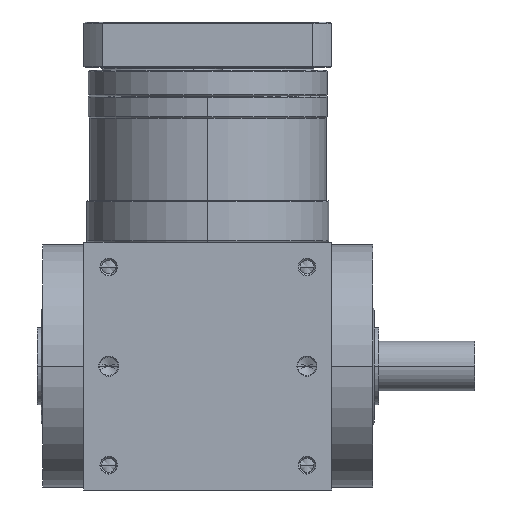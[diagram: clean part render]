
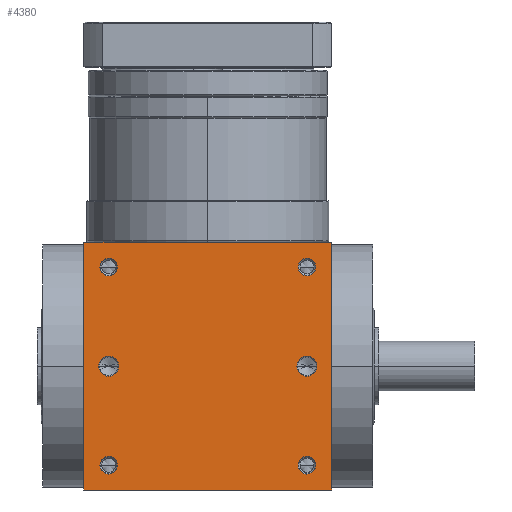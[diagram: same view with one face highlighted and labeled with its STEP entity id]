
A CAD part, front view. The second image highlights one B-rep face of the part: STEP entity #4380.
In plain terms, the highlighted planar face has unit normal (0, -1, 0).
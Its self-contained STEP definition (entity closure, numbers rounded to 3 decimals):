
#5=DIRECTION('',(1.,0.,0.));
#6=VECTOR('',#5,90.);
#7=CARTESIAN_POINT('',(-45.,-45.,-45.));
#8=LINE('',#7,#6);
#155=DIRECTION('',(0.,0.,1.));
#156=VECTOR('',#155,90.);
#157=CARTESIAN_POINT('',(45.,-45.,-45.));
#158=LINE('',#157,#156);
#209=DIRECTION('',(0.,0.,1.));
#210=VECTOR('',#209,90.);
#211=CARTESIAN_POINT('',(-45.,-45.,-45.));
#212=LINE('',#211,#210);
#213=CARTESIAN_POINT('',(36.,-45.,36.));
#214=DIRECTION('',(0.,1.,0.));
#215=DIRECTION('',(-1.,0.,0.));
#216=AXIS2_PLACEMENT_3D('',#213,#214,#215);
#218=CARTESIAN_POINT('',(36.,-45.,36.));
#219=DIRECTION('',(0.,1.,0.));
#220=DIRECTION('',(1.,0.,0.));
#221=AXIS2_PLACEMENT_3D('',#218,#219,#220);
#223=CARTESIAN_POINT('',(-36.,-45.,36.));
#224=DIRECTION('',(0.,1.,0.));
#225=DIRECTION('',(-1.,0.,0.));
#226=AXIS2_PLACEMENT_3D('',#223,#224,#225);
#228=CARTESIAN_POINT('',(-36.,-45.,36.));
#229=DIRECTION('',(0.,1.,0.));
#230=DIRECTION('',(1.,0.,0.));
#231=AXIS2_PLACEMENT_3D('',#228,#229,#230);
#233=CARTESIAN_POINT('',(36.,-45.,-36.));
#234=DIRECTION('',(0.,1.,0.));
#235=DIRECTION('',(-1.,0.,0.));
#236=AXIS2_PLACEMENT_3D('',#233,#234,#235);
#238=CARTESIAN_POINT('',(36.,-45.,-36.));
#239=DIRECTION('',(0.,1.,0.));
#240=DIRECTION('',(1.,0.,0.));
#241=AXIS2_PLACEMENT_3D('',#238,#239,#240);
#243=CARTESIAN_POINT('',(-36.,-45.,-36.));
#244=DIRECTION('',(0.,1.,0.));
#245=DIRECTION('',(-1.,0.,0.));
#246=AXIS2_PLACEMENT_3D('',#243,#244,#245);
#248=CARTESIAN_POINT('',(-36.,-45.,-36.));
#249=DIRECTION('',(0.,1.,0.));
#250=DIRECTION('',(1.,0.,0.));
#251=AXIS2_PLACEMENT_3D('',#248,#249,#250);
#253=CARTESIAN_POINT('',(-36.,-45.,0.));
#254=DIRECTION('',(0.,1.,0.));
#255=DIRECTION('',(1.,0.,0.));
#256=AXIS2_PLACEMENT_3D('',#253,#254,#255);
#258=CARTESIAN_POINT('',(-36.,-45.,0.));
#259=DIRECTION('',(0.,1.,0.));
#260=DIRECTION('',(-1.,0.,0.));
#261=AXIS2_PLACEMENT_3D('',#258,#259,#260);
#263=CARTESIAN_POINT('',(36.,-45.,0.));
#264=DIRECTION('',(0.,1.,0.));
#265=DIRECTION('',(1.,0.,0.));
#266=AXIS2_PLACEMENT_3D('',#263,#264,#265);
#268=CARTESIAN_POINT('',(36.,-45.,0.));
#269=DIRECTION('',(0.,1.,0.));
#270=DIRECTION('',(-1.,0.,0.));
#271=AXIS2_PLACEMENT_3D('',#268,#269,#270);
#285=DIRECTION('',(1.,0.,0.));
#286=VECTOR('',#285,90.);
#287=CARTESIAN_POINT('',(-45.,-45.,45.));
#288=LINE('',#287,#286);
#3498=CARTESIAN_POINT('',(-45.,-45.,-45.));
#3500=VERTEX_POINT('',#3498);
#3501=CARTESIAN_POINT('',(45.,-45.,-45.));
#3502=VERTEX_POINT('',#3501);
#3506=CARTESIAN_POINT('',(-45.,-45.,45.));
#3508=VERTEX_POINT('',#3506);
#3509=CARTESIAN_POINT('',(45.,-45.,45.));
#3510=VERTEX_POINT('',#3509);
#3681=CARTESIAN_POINT('',(32.8,-45.,36.));
#3682=CARTESIAN_POINT('',(39.2,-45.,36.));
#3683=VERTEX_POINT('',#3681);
#3684=VERTEX_POINT('',#3682);
#3689=CARTESIAN_POINT('',(-39.2,-45.,36.));
#3690=CARTESIAN_POINT('',(-32.8,-45.,36.));
#3691=VERTEX_POINT('',#3689);
#3692=VERTEX_POINT('',#3690);
#3697=CARTESIAN_POINT('',(32.8,-45.,-36.));
#3698=CARTESIAN_POINT('',(39.2,-45.,-36.));
#3699=VERTEX_POINT('',#3697);
#3700=VERTEX_POINT('',#3698);
#3705=CARTESIAN_POINT('',(-39.2,-45.,-36.));
#3706=CARTESIAN_POINT('',(-32.8,-45.,-36.));
#3707=VERTEX_POINT('',#3705);
#3708=VERTEX_POINT('',#3706);
#4029=CARTESIAN_POINT('',(-32.35,-45.,0.));
#4030=CARTESIAN_POINT('',(-39.65,-45.,0.));
#4031=VERTEX_POINT('',#4029);
#4032=VERTEX_POINT('',#4030);
#4037=CARTESIAN_POINT('',(39.65,-45.,0.));
#4038=CARTESIAN_POINT('',(32.35,-45.,0.));
#4039=VERTEX_POINT('',#4037);
#4040=VERTEX_POINT('',#4038);
#4332=CARTESIAN_POINT('',(-45.,-45.,-45.));
#4333=DIRECTION('',(0.,-1.,0.));
#4334=DIRECTION('',(1.,0.,0.));
#4335=AXIS2_PLACEMENT_3D('',#4332,#4333,#4334);
#4336=PLANE('',#4335);
#4337=ORIENTED_EDGE('',*,*,#4172,.F.);
#4338=ORIENTED_EDGE('',*,*,#4215,.T.);
#4340=ORIENTED_EDGE('',*,*,#4339,.T.);
#4341=ORIENTED_EDGE('',*,*,#4294,.F.);
#4342=EDGE_LOOP('',(#4337,#4338,#4340,#4341));
#4343=FACE_OUTER_BOUND('',#4342,.F.);
#4345=ORIENTED_EDGE('',*,*,#4344,.F.);
#4347=ORIENTED_EDGE('',*,*,#4346,.F.);
#4348=EDGE_LOOP('',(#4345,#4347));
#4349=FACE_BOUND('',#4348,.F.);
#4351=ORIENTED_EDGE('',*,*,#4350,.F.);
#4353=ORIENTED_EDGE('',*,*,#4352,.F.);
#4354=EDGE_LOOP('',(#4351,#4353));
#4355=FACE_BOUND('',#4354,.F.);
#4357=ORIENTED_EDGE('',*,*,#4356,.F.);
#4359=ORIENTED_EDGE('',*,*,#4358,.F.);
#4360=EDGE_LOOP('',(#4357,#4359));
#4361=FACE_BOUND('',#4360,.F.);
#4363=ORIENTED_EDGE('',*,*,#4362,.F.);
#4365=ORIENTED_EDGE('',*,*,#4364,.F.);
#4366=EDGE_LOOP('',(#4363,#4365));
#4367=FACE_BOUND('',#4366,.F.);
#4369=ORIENTED_EDGE('',*,*,#4368,.F.);
#4371=ORIENTED_EDGE('',*,*,#4370,.F.);
#4372=EDGE_LOOP('',(#4369,#4371));
#4373=FACE_BOUND('',#4372,.F.);
#4375=ORIENTED_EDGE('',*,*,#4374,.F.);
#4377=ORIENTED_EDGE('',*,*,#4376,.F.);
#4378=EDGE_LOOP('',(#4375,#4377));
#4379=FACE_BOUND('',#4378,.F.);
#4380=ADVANCED_FACE('',(#4343,#4349,#4355,#4361,#4367,#4373,#4379),#4336,.T.);
#217=CIRCLE('',#216,3.2);
#222=CIRCLE('',#221,3.2);
#227=CIRCLE('',#226,3.2);
#232=CIRCLE('',#231,3.2);
#237=CIRCLE('',#236,3.2);
#242=CIRCLE('',#241,3.2);
#247=CIRCLE('',#246,3.2);
#252=CIRCLE('',#251,3.2);
#257=CIRCLE('',#256,3.65);
#262=CIRCLE('',#261,3.65);
#267=CIRCLE('',#266,3.65);
#272=CIRCLE('',#271,3.65);
#4172=EDGE_CURVE('',#3500,#3502,#8,.T.);
#4215=EDGE_CURVE('',#3500,#3508,#212,.T.);
#4294=EDGE_CURVE('',#3502,#3510,#158,.T.);
#4339=EDGE_CURVE('',#3508,#3510,#288,.T.);
#4344=EDGE_CURVE('',#3683,#3684,#217,.T.);
#4346=EDGE_CURVE('',#3684,#3683,#222,.T.);
#4350=EDGE_CURVE('',#3691,#3692,#227,.T.);
#4352=EDGE_CURVE('',#3692,#3691,#232,.T.);
#4356=EDGE_CURVE('',#3699,#3700,#237,.T.);
#4358=EDGE_CURVE('',#3700,#3699,#242,.T.);
#4362=EDGE_CURVE('',#3707,#3708,#247,.T.);
#4364=EDGE_CURVE('',#3708,#3707,#252,.T.);
#4368=EDGE_CURVE('',#4031,#4032,#257,.T.);
#4370=EDGE_CURVE('',#4032,#4031,#262,.T.);
#4374=EDGE_CURVE('',#4039,#4040,#267,.T.);
#4376=EDGE_CURVE('',#4040,#4039,#272,.T.);
